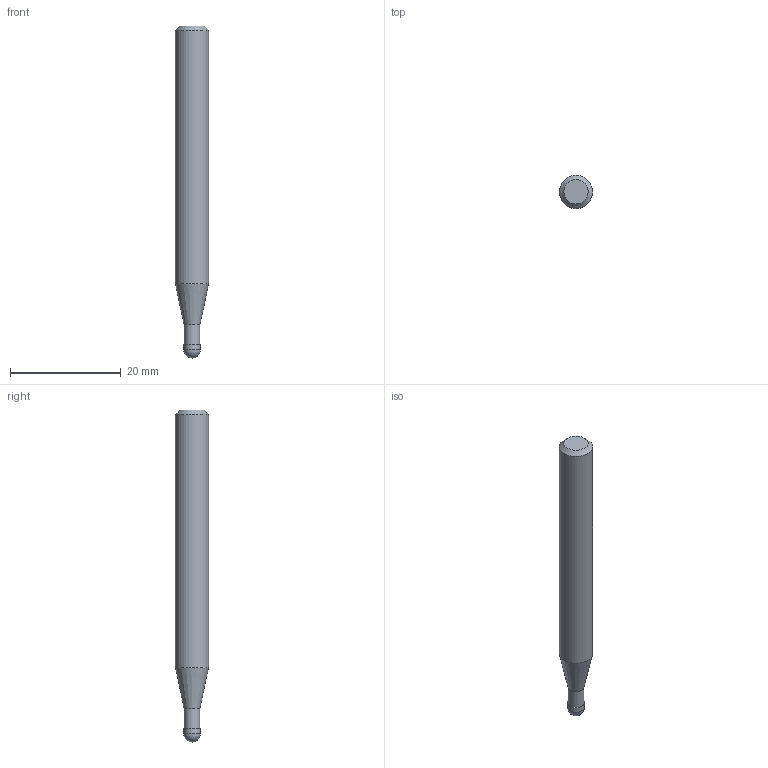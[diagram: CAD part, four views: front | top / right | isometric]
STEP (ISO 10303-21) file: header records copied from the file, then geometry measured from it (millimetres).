
FILE_DESCRIPTION((''),'2;1');
FILE_NAME('C:\Users\nsx150\AppData\Local\Temp\Mastercam 2021\ARV7HD45SN\TEMP.step','2023-06-13T16:38:19',(''),(''),'STEP Write','Mastercam 2021 ... CNC Software, Inc.','');
FILE_SCHEMA(('AUTOMOTIVE_DESIGN'));
Length unit declared in the file: millimetre
Products named in the file (1): None
Bounding box: 6 x 6 x 60 mm (x, y, z)
Volume: 1467 mm3; surface area: 1070.5 mm2
Topology: 2 solids, 2 shells, 9 faces, 14 edges, 8 vertices
Faces by surface type: plane 3, cylinder 3, cone 2, sphere 1
Full cylindrical faces by diameter (mm): 2.85 x1, 3 x1, 6 x1
Entity records: 211 total; most frequent: DIRECTION 36, CARTESIAN_POINT 25, AXIS2_PLACEMENT_3D 18, ORIENTED_EDGE 14, EDGE_LOOP 14, STYLED_ITEM 12, ADVANCED_FACE 9, FACE_BOUND 8
